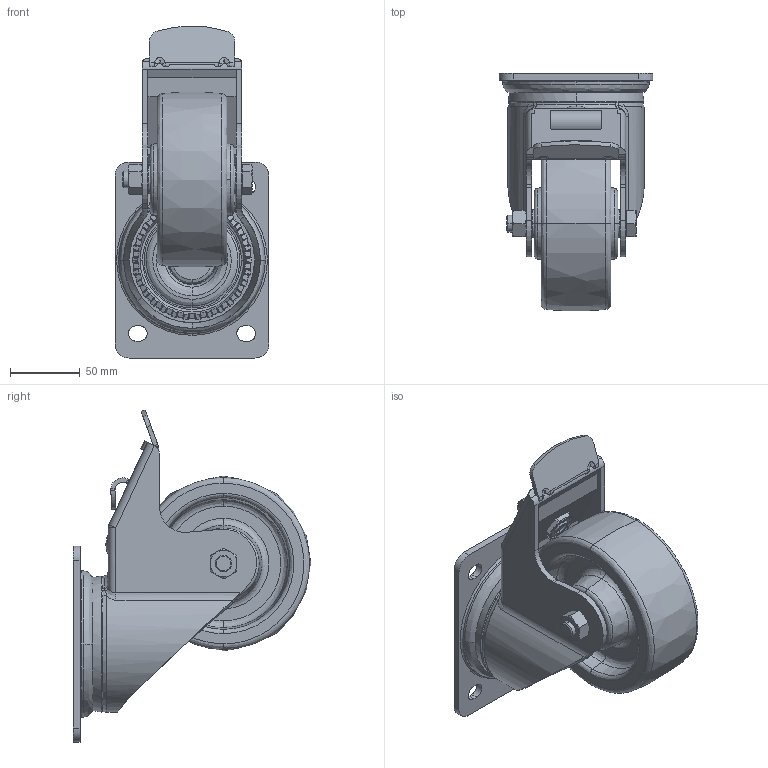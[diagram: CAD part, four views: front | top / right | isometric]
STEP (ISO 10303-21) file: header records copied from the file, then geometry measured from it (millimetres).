
FILE_DESCRIPTION (( 'STEP AP203' ), '1' );
FILE_NAME ('25739_LEN125SCHWERMFESPA.STEP', '2018-03-23T10:19:42', ( '' ), ( '' ), 'SwSTEP 2.0', 'SolidWorks 2017', '' );
FILE_SCHEMA (( 'CONFIG_CONTROL_DESIGN' ));
Length unit declared in the file: millimetre
Products named in the file (1): 25739_LEN125SCHWERMFESPA
Bounding box: 110 x 169.87 x 237.16 mm (x, y, z)
Volume: 850411.1 mm3; surface area: 174705.6 mm2
Topology: 3 solids, 3 shells, 1263 faces, 3442 edges, 2240 vertices
Faces by surface type: plane 519, bspline 502, cone 124, cylinder 118
Entity records: 65762 total; most frequent: CARTESIAN_POINT 37945, ORIENTED_EDGE 6864, DIRECTION 3943, EDGE_CURVE 3432, VERTEX_POINT 2240, VECTOR 1609, LINE 1609, B_SPLINE_CURVE_WITH_KNOTS 1367
